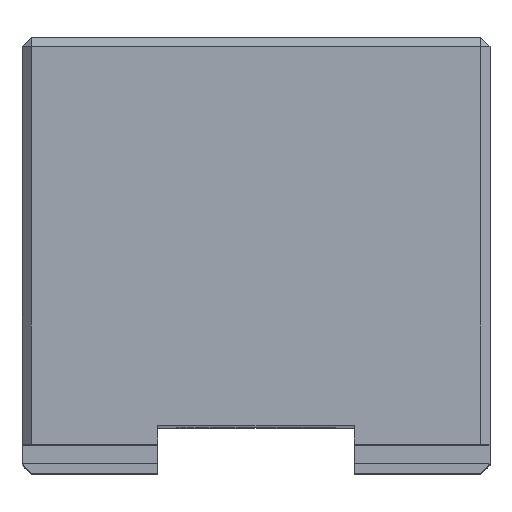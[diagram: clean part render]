
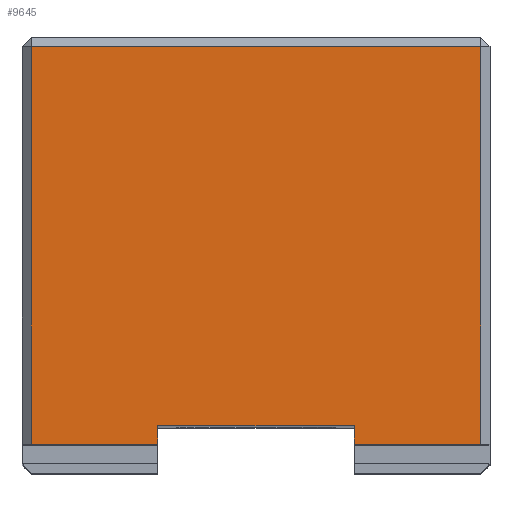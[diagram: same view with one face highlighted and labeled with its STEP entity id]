
A CAD part, top view. The second image highlights one B-rep face of the part: STEP entity #9645.
In plain terms, the highlighted planar face has unit normal (0, 0, 1).
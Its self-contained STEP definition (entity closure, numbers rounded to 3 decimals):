
#41=FACE_OUTER_BOUND('',#611,.T.);
#611=EDGE_LOOP('',(#6261,#6262,#6263,#6264,#6265,#6266,#6267,#6268));
#1186=LINE('',#13392,#2588);
#1194=LINE('',#13408,#2596);
#1195=LINE('',#13410,#2597);
#1196=LINE('',#13412,#2598);
#1197=LINE('',#13414,#2599);
#1198=LINE('',#13416,#2600);
#1199=LINE('',#13418,#2601);
#1200=LINE('',#13419,#2602);
#2588=VECTOR('',#10823,10.);
#2596=VECTOR('',#10835,10.);
#2597=VECTOR('',#10836,10.);
#2598=VECTOR('',#10837,10.);
#2599=VECTOR('',#10838,10.);
#2600=VECTOR('',#10839,10.);
#2601=VECTOR('',#10840,10.);
#2602=VECTOR('',#10841,10.);
#3989=VERTEX_POINT('',#13388);
#3991=VERTEX_POINT('',#13391);
#3997=VERTEX_POINT('',#13407);
#3998=VERTEX_POINT('',#13409);
#3999=VERTEX_POINT('',#13411);
#4000=VERTEX_POINT('',#13413);
#4001=VERTEX_POINT('',#13415);
#4002=VERTEX_POINT('',#13417);
#4838=EDGE_CURVE('',#3991,#3989,#1186,.T.);
#4846=EDGE_CURVE('',#3997,#3989,#1194,.T.);
#4847=EDGE_CURVE('',#3998,#3997,#1195,.T.);
#4848=EDGE_CURVE('',#3999,#3998,#1196,.T.);
#4849=EDGE_CURVE('',#3999,#4000,#1197,.T.);
#4850=EDGE_CURVE('',#4000,#4001,#1198,.T.);
#4851=EDGE_CURVE('',#4001,#4002,#1199,.T.);
#4852=EDGE_CURVE('',#4002,#3991,#1200,.T.);
#6261=ORIENTED_EDGE('',*,*,#4838,.T.);
#6262=ORIENTED_EDGE('',*,*,#4846,.F.);
#6263=ORIENTED_EDGE('',*,*,#4847,.F.);
#6264=ORIENTED_EDGE('',*,*,#4848,.F.);
#6265=ORIENTED_EDGE('',*,*,#4849,.T.);
#6266=ORIENTED_EDGE('',*,*,#4850,.T.);
#6267=ORIENTED_EDGE('',*,*,#4851,.T.);
#6268=ORIENTED_EDGE('',*,*,#4852,.T.);
#9081=PLANE('',#10238);
#9645=ADVANCED_FACE('',(#41),#9081,.T.);
#10238=AXIS2_PLACEMENT_3D('',#13406,#10833,#10834);
#10823=DIRECTION('',(1.,0.,0.));
#10833=DIRECTION('center_axis',(0.,0.,1.));
#10834=DIRECTION('ref_axis',(1.,0.,0.));
#10835=DIRECTION('',(0.,-1.,0.));
#10836=DIRECTION('',(1.,0.,0.));
#10837=DIRECTION('',(0.,1.,0.));
#10838=DIRECTION('',(1.,0.,0.));
#10839=DIRECTION('',(0.,1.,0.));
#10840=DIRECTION('',(1.,0.,0.));
#10841=DIRECTION('',(0.,-1.,0.));
#13388=CARTESIAN_POINT('',(24.,3.,80.));
#13391=CARTESIAN_POINT('',(10.5,3.,80.));
#13392=CARTESIAN_POINT('',(-3.625,3.,80.));
#13406=CARTESIAN_POINT('Origin',(-25.,0.,80.));
#13407=CARTESIAN_POINT('',(24.,45.5,80.));
#13408=CARTESIAN_POINT('',(24.,0.,80.));
#13409=CARTESIAN_POINT('',(-24.,45.5,80.));
#13410=CARTESIAN_POINT('',(-12.5,45.5,80.));
#13411=CARTESIAN_POINT('',(-24.,3.,80.));
#13412=CARTESIAN_POINT('',(-24.,0.,80.));
#13413=CARTESIAN_POINT('',(-10.5,3.,80.));
#13414=CARTESIAN_POINT('',(-21.375,3.,80.));
#13415=CARTESIAN_POINT('',(-10.5,5.,80.));
#13416=CARTESIAN_POINT('',(-10.5,0.,80.));
#13417=CARTESIAN_POINT('',(10.5,5.,80.));
#13418=CARTESIAN_POINT('',(-17.75,5.,80.));
#13419=CARTESIAN_POINT('',(10.5,2.5,80.));
